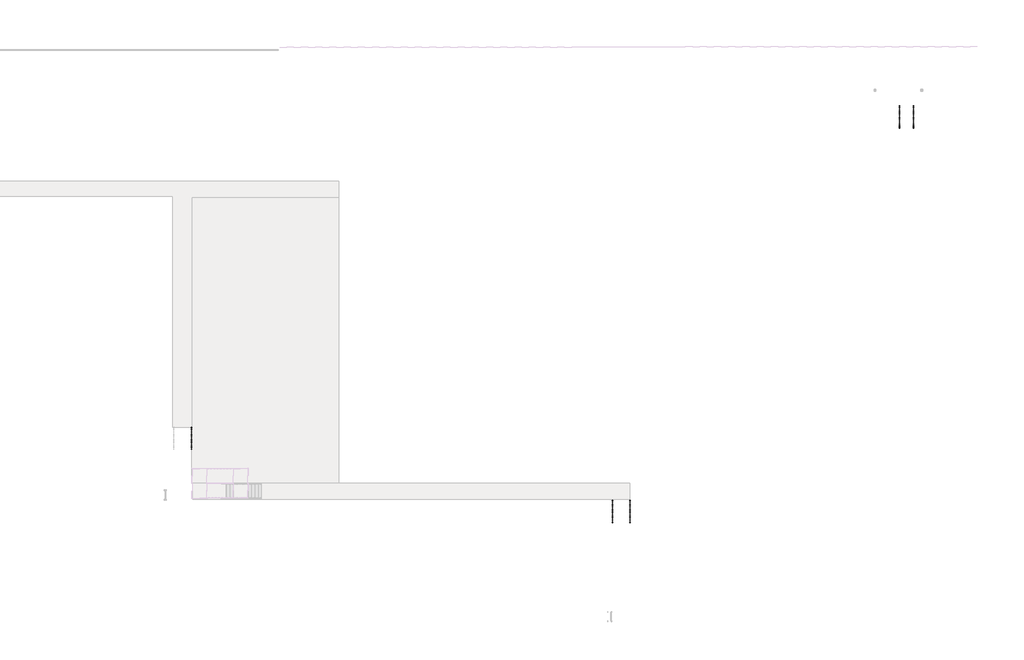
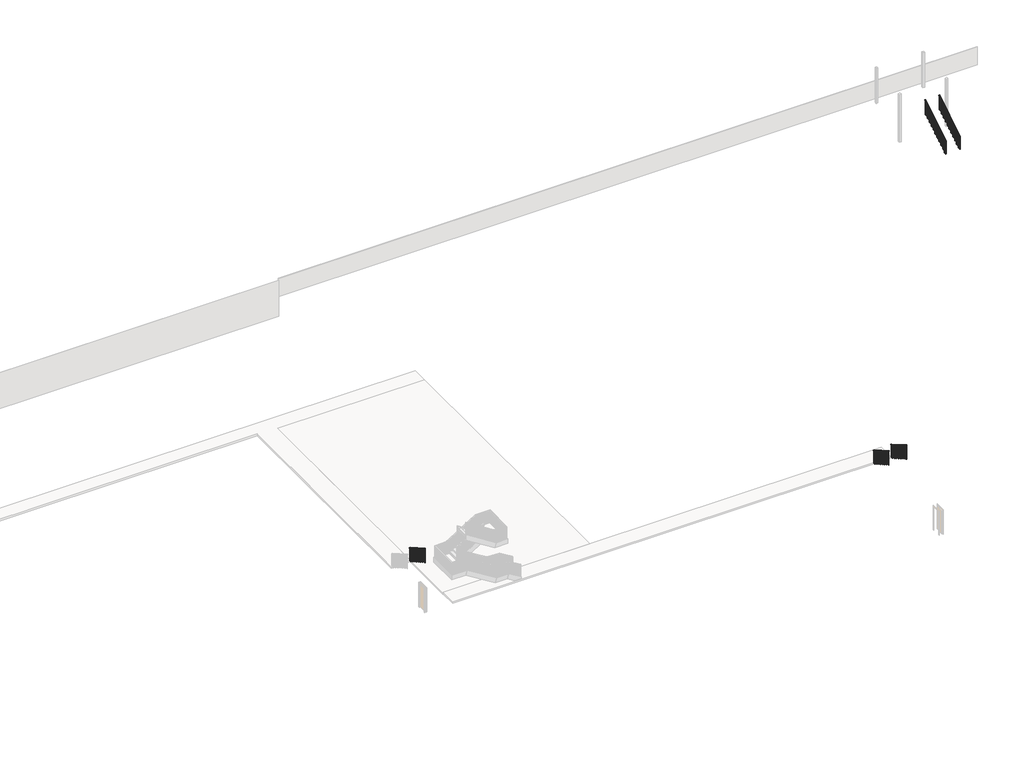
# One storey, part 4 of 5: 5 railings.
"""IFC4 building model written with IfcOpenShell, lengths in millimetres."""

from ifc_helpers import new_model, si_unit, frame, origin, place, context, project, spatial, polyline, outline, extrude, element, save

model = new_model("IFC4")

# Units and contexts
model_context = context("Model", 3, world=origin())
ifc_project = project(units=[si_unit("LENGTHUNIT", "METRE", prefix="MILLI")], contexts=[model_context])

# Site, building, storey
site = spatial("IfcSite", under=ifc_project)
building = spatial("IfcBuilding", under=site)
storey = spatial("IfcBuildingStorey", under=building, Name="Hardstand", Elevation=42810.0)

# Railings
placement = place(None, origin())
element("IfcRailing", 1, ObjectType="1100mm", at=placement, inside=storey, context=model_context, shape_type="SweptSolid", body=[
    extrude(outline(polyline([(11977.1808322, 44025.5555556), (11977.1808322, 43967.8509691), (9817.1808322, 45212.2954135), (9817.1808322, 45270.0), (11977.1808322, 44025.5555556)])), frame((-44548.6423298, 0.0, 0.0), z_axis=(1.0, 0.0, 0.0), x_axis=(0.0, 1.0, 0.0)), (0.0, 0.0, 1.0), 50.0),
    extrude(outline(polyline([(9897.1808322, 45166.2048785), (9897.1808322, 44014.4444444), (9872.1808322, 44014.4444444), (9872.1808322, 45180.6081707), (9897.1808322, 45166.2048785)])), frame((-44536.1423298, 0.0, 0.0), z_axis=(1.0, 0.0, 0.0), x_axis=(0.0, 1.0, 0.0)), (0.0, 0.0, 1.0), 25.0),
    extrude(outline(polyline([(10032.1808322, 45088.4271007), (10032.1808322, 44014.4444444), (10007.1808322, 44014.4444444), (10007.1808322, 45102.8303929), (10032.1808322, 45088.4271007)])), frame((-44536.1423298, 0.0, 0.0), z_axis=(1.0, 0.0, 0.0), x_axis=(0.0, 1.0, 0.0)), (0.0, 0.0, 1.0), 25.0),
    extrude(outline(polyline([(10167.1808322, 45010.649323), (10167.1808322, 43858.8888889), (10142.1808322, 43858.8888889), (10142.1808322, 45025.0526152), (10167.1808322, 45010.649323)])), frame((-44536.1423298, 0.0, 0.0), z_axis=(1.0, 0.0, 0.0), x_axis=(0.0, 1.0, 0.0)), (0.0, 0.0, 1.0), 25.0),
    extrude(outline(polyline([(10302.1808322, 44932.8715452), (10302.1808322, 43858.8888889), (10277.1808322, 43858.8888889), (10277.1808322, 44947.2748374), (10302.1808322, 44932.8715452)])), frame((-44536.1423298, 0.0, 0.0), z_axis=(1.0, 0.0, 0.0), x_axis=(0.0, 1.0, 0.0)), (0.0, 0.0, 1.0), 25.0),
    extrude(outline(polyline([(10437.1808322, 44855.0937674), (10437.1808322, 43703.3333333), (10412.1808322, 43703.3333333), (10412.1808322, 44869.4970596), (10437.1808322, 44855.0937674)])), frame((-44536.1423298, 0.0, 0.0), z_axis=(1.0, 0.0, 0.0), x_axis=(0.0, 1.0, 0.0)), (0.0, 0.0, 1.0), 25.0),
    extrude(outline(polyline([(10572.1808322, 44777.3159896), (10572.1808322, 43703.3333333), (10547.1808322, 43703.3333333), (10547.1808322, 44791.7192818), (10572.1808322, 44777.3159896)])), frame((-44536.1423298, 0.0, 0.0), z_axis=(1.0, 0.0, 0.0), x_axis=(0.0, 1.0, 0.0)), (0.0, 0.0, 1.0), 25.0),
    extrude(outline(polyline([(10707.1808322, 44699.5382119), (10707.1808322, 43547.7777778), (10682.1808322, 43547.7777778), (10682.1808322, 44713.941504), (10707.1808322, 44699.5382119)])), frame((-44536.1423298, 0.0, 0.0), z_axis=(1.0, 0.0, 0.0), x_axis=(0.0, 1.0, 0.0)), (0.0, 0.0, 1.0), 25.0),
    extrude(outline(polyline([(10842.1808322, 44621.7604341), (10842.1808322, 43547.7777778), (10817.1808322, 43547.7777778), (10817.1808322, 44636.1637263), (10842.1808322, 44621.7604341)])), frame((-44536.1423298, 0.0, 0.0), z_axis=(1.0, 0.0, 0.0), x_axis=(0.0, 1.0, 0.0)), (0.0, 0.0, 1.0), 25.0),
    extrude(outline(polyline([(10977.1808322, 44543.9826563), (10977.1808322, 43392.2222222), (10952.1808322, 43392.2222222), (10952.1808322, 44558.3859485), (10977.1808322, 44543.9826563)])), frame((-44536.1423298, 0.0, 0.0), z_axis=(1.0, 0.0, 0.0), x_axis=(0.0, 1.0, 0.0)), (0.0, 0.0, 1.0), 25.0),
    extrude(outline(polyline([(11112.1808322, 44466.2048785), (11112.1808322, 43392.2222222), (11087.1808322, 43392.2222222), (11087.1808322, 44480.6081707), (11112.1808322, 44466.2048785)])), frame((-44536.1423298, 0.0, 0.0), z_axis=(1.0, 0.0, 0.0), x_axis=(0.0, 1.0, 0.0)), (0.0, 0.0, 1.0), 25.0),
    extrude(outline(polyline([(11247.1808322, 44388.4271007), (11247.1808322, 43236.6666667), (11222.1808322, 43236.6666667), (11222.1808322, 44402.8303929), (11247.1808322, 44388.4271007)])), frame((-44536.1423298, 0.0, 0.0), z_axis=(1.0, 0.0, 0.0), x_axis=(0.0, 1.0, 0.0)), (0.0, 0.0, 1.0), 25.0),
    extrude(outline(polyline([(11382.1808322, 44310.649323), (11382.1808322, 43236.6666667), (11357.1808322, 43236.6666667), (11357.1808322, 44325.0526152), (11382.1808322, 44310.649323)])), frame((-44536.1423298, 0.0, 0.0), z_axis=(1.0, 0.0, 0.0), x_axis=(0.0, 1.0, 0.0)), (0.0, 0.0, 1.0), 25.0),
    extrude(outline(polyline([(11517.1808322, 44232.8715452), (11517.1808322, 43081.1111111), (11492.1808322, 43081.1111111), (11492.1808322, 44247.2748374), (11517.1808322, 44232.8715452)])), frame((-44536.1423298, 0.0, 0.0), z_axis=(1.0, 0.0, 0.0), x_axis=(0.0, 1.0, 0.0)), (0.0, 0.0, 1.0), 25.0),
    extrude(outline(polyline([(11652.1808322, 44155.0937674), (11652.1808322, 43081.1111111), (11627.1808322, 43081.1111111), (11627.1808322, 44169.4970596), (11652.1808322, 44155.0937674)])), frame((-44536.1423298, 0.0, 0.0), z_axis=(1.0, 0.0, 0.0), x_axis=(0.0, 1.0, 0.0)), (0.0, 0.0, 1.0), 25.0),
    extrude(outline(polyline([(11787.1808322, 44077.3159896), (11787.1808322, 42925.5555556), (11762.1808322, 42925.5555556), (11762.1808322, 44091.7192818), (11787.1808322, 44077.3159896)])), frame((-44536.1423298, 0.0, 0.0), z_axis=(1.0, 0.0, 0.0), x_axis=(0.0, 1.0, 0.0)), (0.0, 0.0, 1.0), 25.0),
    extrude(outline(polyline([(11922.1808322, 43999.5382119), (11922.1808322, 42925.5555556), (11897.1808322, 42925.5555556), (11897.1808322, 44013.941504), (11922.1808322, 43999.5382119)])), frame((-44536.1423298, 0.0, 0.0), z_axis=(1.0, 0.0, 0.0), x_axis=(0.0, 1.0, 0.0)), (0.0, 0.0, 1.0), 25.0),
    extrude(outline(polyline([(9842.1808322, 45197.8921213), (9842.1808322, 44014.4444444), (9817.1808322, 44014.4444444), (9817.1808322, 45212.2954135), (9842.1808322, 45197.8921213)])), frame((-44536.1423298, 0.0, 0.0), z_axis=(1.0, 0.0, 0.0), x_axis=(0.0, 1.0, 0.0)), (0.0, 0.0, 1.0), 25.0),
    extrude(outline(polyline([(11977.1808322, 43967.8509691), (11977.1808322, 42925.5555556), (11952.1808322, 42925.5555556), (11952.1808322, 43982.2542612), (11977.1808322, 43967.8509691)])), frame((-44536.1423298, 0.0, 0.0), z_axis=(1.0, 0.0, 0.0), x_axis=(0.0, 1.0, 0.0)), (0.0, 0.0, 1.0), 25.0),
])
element("IfcRailing", 2, ObjectType="1100mm", at=placement, inside=storey, context=model_context, shape_type="SweptSolid", body=[
    extrude(outline(polyline([(11977.1808322, 44025.5555556), (11977.1808322, 43967.8509691), (9817.1808322, 45212.2954135), (9817.1808322, 45270.0), (11977.1808322, 44025.5555556)])), frame((-43099.4423298, 0.0, 0.0), z_axis=(1.0, 0.0, 0.0), x_axis=(0.0, 1.0, 0.0)), (0.0, 0.0, 1.0), 50.0),
    extrude(outline(polyline([(9897.1808322, 44014.4444444), (9872.1808322, 44014.4444444), (9872.1808322, 45180.6081707), (9897.1808322, 45166.2048785), (9897.1808322, 44014.4444444)])), frame((-43086.9423298, 0.0, 0.0), z_axis=(1.0, 0.0, 0.0), x_axis=(0.0, 1.0, 0.0)), (0.0, 0.0, 1.0), 25.0),
    extrude(outline(polyline([(10032.1808322, 44014.4444444), (10007.1808322, 44014.4444444), (10007.1808322, 45102.8303929), (10032.1808322, 45088.4271007), (10032.1808322, 44014.4444444)])), frame((-43086.9423298, 0.0, 0.0), z_axis=(1.0, 0.0, 0.0), x_axis=(0.0, 1.0, 0.0)), (0.0, 0.0, 1.0), 25.0),
    extrude(outline(polyline([(10167.1808322, 43858.8888889), (10142.1808322, 43858.8888889), (10142.1808322, 45025.0526152), (10167.1808322, 45010.649323), (10167.1808322, 43858.8888889)])), frame((-43086.9423298, 0.0, 0.0), z_axis=(1.0, 0.0, 0.0), x_axis=(0.0, 1.0, 0.0)), (0.0, 0.0, 1.0), 25.0),
    extrude(outline(polyline([(10302.1808322, 43858.8888889), (10277.1808322, 43858.8888889), (10277.1808322, 44947.2748374), (10302.1808322, 44932.8715452), (10302.1808322, 43858.8888889)])), frame((-43086.9423298, 0.0, 0.0), z_axis=(1.0, 0.0, 0.0), x_axis=(0.0, 1.0, 0.0)), (0.0, 0.0, 1.0), 25.0),
    extrude(outline(polyline([(10437.1808322, 43703.3333333), (10412.1808322, 43703.3333333), (10412.1808322, 44869.4970596), (10437.1808322, 44855.0937674), (10437.1808322, 43703.3333333)])), frame((-43086.9423298, 0.0, 0.0), z_axis=(1.0, 0.0, 0.0), x_axis=(0.0, 1.0, 0.0)), (0.0, 0.0, 1.0), 25.0),
    extrude(outline(polyline([(10572.1808322, 43703.3333333), (10547.1808322, 43703.3333333), (10547.1808322, 44791.7192818), (10572.1808322, 44777.3159896), (10572.1808322, 43703.3333333)])), frame((-43086.9423298, 0.0, 0.0), z_axis=(1.0, 0.0, 0.0), x_axis=(0.0, 1.0, 0.0)), (0.0, 0.0, 1.0), 25.0),
    extrude(outline(polyline([(10707.1808322, 43547.7777778), (10682.1808322, 43547.7777778), (10682.1808322, 44713.941504), (10707.1808322, 44699.5382119), (10707.1808322, 43547.7777778)])), frame((-43086.9423298, 0.0, 0.0), z_axis=(1.0, 0.0, 0.0), x_axis=(0.0, 1.0, 0.0)), (0.0, 0.0, 1.0), 25.0),
    extrude(outline(polyline([(10842.1808322, 43547.7777778), (10817.1808322, 43547.7777778), (10817.1808322, 44636.1637263), (10842.1808322, 44621.7604341), (10842.1808322, 43547.7777778)])), frame((-43086.9423298, 0.0, 0.0), z_axis=(1.0, 0.0, 0.0), x_axis=(0.0, 1.0, 0.0)), (0.0, 0.0, 1.0), 25.0),
    extrude(outline(polyline([(10977.1808322, 43392.2222222), (10952.1808322, 43392.2222222), (10952.1808322, 44558.3859485), (10977.1808322, 44543.9826563), (10977.1808322, 43392.2222222)])), frame((-43086.9423298, 0.0, 0.0), z_axis=(1.0, 0.0, 0.0), x_axis=(0.0, 1.0, 0.0)), (0.0, 0.0, 1.0), 25.0),
    extrude(outline(polyline([(11112.1808322, 43392.2222222), (11087.1808322, 43392.2222222), (11087.1808322, 44480.6081707), (11112.1808322, 44466.2048785), (11112.1808322, 43392.2222222)])), frame((-43086.9423298, 0.0, 0.0), z_axis=(1.0, 0.0, 0.0), x_axis=(0.0, 1.0, 0.0)), (0.0, 0.0, 1.0), 25.0),
    extrude(outline(polyline([(11247.1808322, 43236.6666667), (11222.1808322, 43236.6666667), (11222.1808322, 44402.8303929), (11247.1808322, 44388.4271007), (11247.1808322, 43236.6666667)])), frame((-43086.9423298, 0.0, 0.0), z_axis=(1.0, 0.0, 0.0), x_axis=(0.0, 1.0, 0.0)), (0.0, 0.0, 1.0), 25.0),
    extrude(outline(polyline([(11382.1808322, 43236.6666667), (11357.1808322, 43236.6666667), (11357.1808322, 44325.0526152), (11382.1808322, 44310.649323), (11382.1808322, 43236.6666667)])), frame((-43086.9423298, 0.0, 0.0), z_axis=(1.0, 0.0, 0.0), x_axis=(0.0, 1.0, 0.0)), (0.0, 0.0, 1.0), 25.0),
    extrude(outline(polyline([(11517.1808322, 43081.1111111), (11492.1808322, 43081.1111111), (11492.1808322, 44247.2748374), (11517.1808322, 44232.8715452), (11517.1808322, 43081.1111111)])), frame((-43086.9423298, 0.0, 0.0), z_axis=(1.0, 0.0, 0.0), x_axis=(0.0, 1.0, 0.0)), (0.0, 0.0, 1.0), 25.0),
    extrude(outline(polyline([(11652.1808322, 43081.1111111), (11627.1808322, 43081.1111111), (11627.1808322, 44169.4970596), (11652.1808322, 44155.0937674), (11652.1808322, 43081.1111111)])), frame((-43086.9423298, 0.0, 0.0), z_axis=(1.0, 0.0, 0.0), x_axis=(0.0, 1.0, 0.0)), (0.0, 0.0, 1.0), 25.0),
    extrude(outline(polyline([(11787.1808322, 42925.5555556), (11762.1808322, 42925.5555556), (11762.1808322, 44091.7192818), (11787.1808322, 44077.3159896), (11787.1808322, 42925.5555556)])), frame((-43086.9423298, 0.0, 0.0), z_axis=(1.0, 0.0, 0.0), x_axis=(0.0, 1.0, 0.0)), (0.0, 0.0, 1.0), 25.0),
    extrude(outline(polyline([(11922.1808322, 42925.5555556), (11897.1808322, 42925.5555556), (11897.1808322, 44013.941504), (11922.1808322, 43999.5382119), (11922.1808322, 42925.5555556)])), frame((-43086.9423298, 0.0, 0.0), z_axis=(1.0, 0.0, 0.0), x_axis=(0.0, 1.0, 0.0)), (0.0, 0.0, 1.0), 25.0),
    extrude(outline(polyline([(9842.1808322, 44014.4444444), (9817.1808322, 44014.4444444), (9817.1808322, 45212.2954135), (9842.1808322, 45197.8921213), (9842.1808322, 44014.4444444)])), frame((-43086.9423298, 0.0, 0.0), z_axis=(1.0, 0.0, 0.0), x_axis=(0.0, 1.0, 0.0)), (0.0, 0.0, 1.0), 25.0),
    extrude(outline(polyline([(11977.1808322, 42925.5555556), (11952.1808322, 42925.5555556), (11952.1808322, 43982.2542612), (11977.1808322, 43967.8509691), (11977.1808322, 42925.5555556)])), frame((-43086.9423298, 0.0, 0.0), z_axis=(1.0, 0.0, 0.0), x_axis=(0.0, 1.0, 0.0)), (0.0, 0.0, 1.0), 25.0),
])
element("IfcRailing", 3, ObjectType="1100mm", at=placement, inside=storey, context=model_context, shape_type="SweptSolid", body=[
    extrude(outline(polyline([(18017.4703267, 44025.5555556), (18017.4703267, 43967.8509691), (15857.4703267, 45212.2954135), (15857.4703267, 45270.0), (18017.4703267, 44025.5555556)])), frame((-79256.0913038, 0.0, 0.0), z_axis=(1.0, 0.0, 0.0), x_axis=(0.0, 1.0, 0.0)), (0.0, 0.0, 1.0), 50.0),
    extrude(outline(polyline([(15937.4703267, 44014.4444444), (15912.4703267, 44014.4444444), (15912.4703267, 45180.6081707), (15937.4703267, 45166.2048785), (15937.4703267, 44014.4444444)])), frame((-79243.5913038, 0.0, 0.0), z_axis=(1.0, 0.0, 0.0), x_axis=(0.0, 1.0, 0.0)), (0.0, 0.0, 1.0), 25.0),
    extrude(outline(polyline([(16072.4703267, 44014.4444444), (16047.4703267, 44014.4444444), (16047.4703267, 45102.8303929), (16072.4703267, 45088.4271007), (16072.4703267, 44014.4444444)])), frame((-79243.5913038, 0.0, 0.0), z_axis=(1.0, 0.0, 0.0), x_axis=(0.0, 1.0, 0.0)), (0.0, 0.0, 1.0), 25.0),
    extrude(outline(polyline([(16207.4703267, 43858.8888889), (16182.4703267, 43858.8888889), (16182.4703267, 45025.0526152), (16207.4703267, 45010.649323), (16207.4703267, 43858.8888889)])), frame((-79243.5913038, 0.0, 0.0), z_axis=(1.0, 0.0, 0.0), x_axis=(0.0, 1.0, 0.0)), (0.0, 0.0, 1.0), 25.0),
    extrude(outline(polyline([(16342.4703267, 43858.8888889), (16317.4703267, 43858.8888889), (16317.4703267, 44947.2748374), (16342.4703267, 44932.8715452), (16342.4703267, 43858.8888889)])), frame((-79243.5913038, 0.0, 0.0), z_axis=(1.0, 0.0, 0.0), x_axis=(0.0, 1.0, 0.0)), (0.0, 0.0, 1.0), 25.0),
    extrude(outline(polyline([(16477.4703267, 43703.3333333), (16452.4703267, 43703.3333333), (16452.4703267, 44869.4970596), (16477.4703267, 44855.0937674), (16477.4703267, 43703.3333333)])), frame((-79243.5913038, 0.0, 0.0), z_axis=(1.0, 0.0, 0.0), x_axis=(0.0, 1.0, 0.0)), (0.0, 0.0, 1.0), 25.0),
    extrude(outline(polyline([(16612.4703267, 43703.3333333), (16587.4703267, 43703.3333333), (16587.4703267, 44791.7192818), (16612.4703267, 44777.3159896), (16612.4703267, 43703.3333333)])), frame((-79243.5913038, 0.0, 0.0), z_axis=(1.0, 0.0, 0.0), x_axis=(0.0, 1.0, 0.0)), (0.0, 0.0, 1.0), 25.0),
    extrude(outline(polyline([(16747.4703267, 43547.7777778), (16722.4703267, 43547.7777778), (16722.4703267, 44713.941504), (16747.4703267, 44699.5382119), (16747.4703267, 43547.7777778)])), frame((-79243.5913038, 0.0, 0.0), z_axis=(1.0, 0.0, 0.0), x_axis=(0.0, 1.0, 0.0)), (0.0, 0.0, 1.0), 25.0),
    extrude(outline(polyline([(16882.4703267, 43547.7777778), (16857.4703267, 43547.7777778), (16857.4703267, 44636.1637263), (16882.4703267, 44621.7604341), (16882.4703267, 43547.7777778)])), frame((-79243.5913038, 0.0, 0.0), z_axis=(1.0, 0.0, 0.0), x_axis=(0.0, 1.0, 0.0)), (0.0, 0.0, 1.0), 25.0),
    extrude(outline(polyline([(17017.4703267, 43392.2222222), (16992.4703267, 43392.2222222), (16992.4703267, 44558.3859485), (17017.4703267, 44543.9826563), (17017.4703267, 43392.2222222)])), frame((-79243.5913038, 0.0, 0.0), z_axis=(1.0, 0.0, 0.0), x_axis=(0.0, 1.0, 0.0)), (0.0, 0.0, 1.0), 25.0),
    extrude(outline(polyline([(17152.4703267, 43392.2222222), (17127.4703267, 43392.2222222), (17127.4703267, 44480.6081707), (17152.4703267, 44466.2048785), (17152.4703267, 43392.2222222)])), frame((-79243.5913038, 0.0, 0.0), z_axis=(1.0, 0.0, 0.0), x_axis=(0.0, 1.0, 0.0)), (0.0, 0.0, 1.0), 25.0),
    extrude(outline(polyline([(17287.4703267, 43236.6666667), (17262.4703267, 43236.6666667), (17262.4703267, 44402.8303929), (17287.4703267, 44388.4271007), (17287.4703267, 43236.6666667)])), frame((-79243.5913038, 0.0, 0.0), z_axis=(1.0, 0.0, 0.0), x_axis=(0.0, 1.0, 0.0)), (0.0, 0.0, 1.0), 25.0),
    extrude(outline(polyline([(17422.4703267, 43236.6666667), (17397.4703267, 43236.6666667), (17397.4703267, 44325.0526152), (17422.4703267, 44310.649323), (17422.4703267, 43236.6666667)])), frame((-79243.5913038, 0.0, 0.0), z_axis=(1.0, 0.0, 0.0), x_axis=(0.0, 1.0, 0.0)), (0.0, 0.0, 1.0), 25.0),
    extrude(outline(polyline([(17557.4703267, 43081.1111111), (17532.4703267, 43081.1111111), (17532.4703267, 44247.2748374), (17557.4703267, 44232.8715452), (17557.4703267, 43081.1111111)])), frame((-79243.5913038, 0.0, 0.0), z_axis=(1.0, 0.0, 0.0), x_axis=(0.0, 1.0, 0.0)), (0.0, 0.0, 1.0), 25.0),
    extrude(outline(polyline([(17692.4703267, 43081.1111111), (17667.4703267, 43081.1111111), (17667.4703267, 44169.4970596), (17692.4703267, 44155.0937674), (17692.4703267, 43081.1111111)])), frame((-79243.5913038, 0.0, 0.0), z_axis=(1.0, 0.0, 0.0), x_axis=(0.0, 1.0, 0.0)), (0.0, 0.0, 1.0), 25.0),
    extrude(outline(polyline([(17827.4703267, 42925.5555556), (17802.4703267, 42925.5555556), (17802.4703267, 44091.7192818), (17827.4703267, 44077.3159896), (17827.4703267, 42925.5555556)])), frame((-79243.5913038, 0.0, 0.0), z_axis=(1.0, 0.0, 0.0), x_axis=(0.0, 1.0, 0.0)), (0.0, 0.0, 1.0), 25.0),
    extrude(outline(polyline([(17962.4703267, 42925.5555556), (17937.4703267, 42925.5555556), (17937.4703267, 44013.941504), (17962.4703267, 43999.5382119), (17962.4703267, 42925.5555556)])), frame((-79243.5913038, 0.0, 0.0), z_axis=(1.0, 0.0, 0.0), x_axis=(0.0, 1.0, 0.0)), (0.0, 0.0, 1.0), 25.0),
    extrude(outline(polyline([(15882.4703267, 44014.4444444), (15857.4703267, 44014.4444444), (15857.4703267, 45212.2954135), (15882.4703267, 45197.8921213), (15882.4703267, 44014.4444444)])), frame((-79243.5913038, 0.0, 0.0), z_axis=(1.0, 0.0, 0.0), x_axis=(0.0, 1.0, 0.0)), (0.0, 0.0, 1.0), 25.0),
    extrude(outline(polyline([(18017.4703267, 42925.5555556), (17992.4703267, 42925.5555556), (17992.4703267, 43982.2542612), (18017.4703267, 43967.8509691), (18017.4703267, 42925.5555556)])), frame((-79243.5913038, 0.0, 0.0), z_axis=(1.0, 0.0, 0.0), x_axis=(0.0, 1.0, 0.0)), (0.0, 0.0, 1.0), 25.0),
])
element("IfcRailing", 4, ObjectType="1100mm", at=placement, inside=storey, context=model_context, shape_type="SweptSolid", body=[
    extrude(outline(polyline([(42669.4991708, 43927.9078487), (42669.4991708, 43986.6666667), (45639.4991708, 45820.0), (45639.4991708, 45761.241182), (42669.4991708, 43927.9078487)])), frame((-19719.9693283, 0.0, 0.0), z_axis=(1.0, 0.0, 0.0), x_axis=(0.0, 1.0, 0.0)), (0.0, 0.0, 1.0), 50.0),
    extrude(outline(polyline([(45559.4991708, 44553.3333333), (45559.4991708, 45711.858466), (45584.4991708, 45727.2905647), (45584.4991708, 44553.3333333), (45559.4991708, 44553.3333333)])), frame((-19707.4693283, 0.0, 0.0), z_axis=(1.0, 0.0, 0.0), x_axis=(0.0, 1.0, 0.0)), (0.0, 0.0, 1.0), 25.0),
    extrude(outline(polyline([(45424.4991708, 44553.3333333), (45424.4991708, 45628.5251326), (45449.4991708, 45643.9572314), (45449.4991708, 44553.3333333), (45424.4991708, 44553.3333333)])), frame((-19707.4693283, 0.0, 0.0), z_axis=(1.0, 0.0, 0.0), x_axis=(0.0, 1.0, 0.0)), (0.0, 0.0, 1.0), 25.0),
    extrude(outline(polyline([(45289.4991708, 44386.6666667), (45289.4991708, 45545.1917993), (45314.4991708, 45560.6238981), (45314.4991708, 44386.6666667), (45289.4991708, 44386.6666667)])), frame((-19707.4693283, 0.0, 0.0), z_axis=(1.0, 0.0, 0.0), x_axis=(0.0, 1.0, 0.0)), (0.0, 0.0, 1.0), 25.0),
    extrude(outline(polyline([(45154.4991708, 44386.6666667), (45154.4991708, 45461.858466), (45179.4991708, 45477.2905647), (45179.4991708, 44386.6666667), (45154.4991708, 44386.6666667)])), frame((-19707.4693283, 0.0, 0.0), z_axis=(1.0, 0.0, 0.0), x_axis=(0.0, 1.0, 0.0)), (0.0, 0.0, 1.0), 25.0),
    extrude(outline(polyline([(45019.4991708, 44220.0), (45019.4991708, 45378.5251326), (45044.4991708, 45393.9572314), (45044.4991708, 44220.0), (45019.4991708, 44220.0)])), frame((-19707.4693283, 0.0, 0.0), z_axis=(1.0, 0.0, 0.0), x_axis=(0.0, 1.0, 0.0)), (0.0, 0.0, 1.0), 25.0),
    extrude(outline(polyline([(44884.4991708, 44220.0), (44884.4991708, 45295.1917993), (44909.4991708, 45310.6238981), (44909.4991708, 44220.0), (44884.4991708, 44220.0)])), frame((-19707.4693283, 0.0, 0.0), z_axis=(1.0, 0.0, 0.0), x_axis=(0.0, 1.0, 0.0)), (0.0, 0.0, 1.0), 25.0),
    extrude(outline(polyline([(44749.4991708, 44053.3333333), (44749.4991708, 45211.858466), (44774.4991708, 45227.2905647), (44774.4991708, 44053.3333333), (44749.4991708, 44053.3333333)])), frame((-19707.4693283, 0.0, 0.0), z_axis=(1.0, 0.0, 0.0), x_axis=(0.0, 1.0, 0.0)), (0.0, 0.0, 1.0), 25.0),
    extrude(outline(polyline([(44614.4991708, 44053.3333333), (44614.4991708, 45128.5251326), (44639.4991708, 45143.9572314), (44639.4991708, 44053.3333333), (44614.4991708, 44053.3333333)])), frame((-19707.4693283, 0.0, 0.0), z_axis=(1.0, 0.0, 0.0), x_axis=(0.0, 1.0, 0.0)), (0.0, 0.0, 1.0), 25.0),
    extrude(outline(polyline([(44479.4991708, 43886.6666667), (44479.4991708, 45045.1917993), (44504.4991708, 45060.6238981), (44504.4991708, 43886.6666667), (44479.4991708, 43886.6666667)])), frame((-19707.4693283, 0.0, 0.0), z_axis=(1.0, 0.0, 0.0), x_axis=(0.0, 1.0, 0.0)), (0.0, 0.0, 1.0), 25.0),
    extrude(outline(polyline([(44344.4991708, 43886.6666667), (44344.4991708, 44961.858466), (44369.4991708, 44977.2905647), (44369.4991708, 43886.6666667), (44344.4991708, 43886.6666667)])), frame((-19707.4693283, 0.0, 0.0), z_axis=(1.0, 0.0, 0.0), x_axis=(0.0, 1.0, 0.0)), (0.0, 0.0, 1.0), 25.0),
    extrude(outline(polyline([(44209.4991708, 43720.0), (44209.4991708, 44878.5251326), (44234.4991708, 44893.9572314), (44234.4991708, 43720.0), (44209.4991708, 43720.0)])), frame((-19707.4693283, 0.0, 0.0), z_axis=(1.0, 0.0, 0.0), x_axis=(0.0, 1.0, 0.0)), (0.0, 0.0, 1.0), 25.0),
    extrude(outline(polyline([(44074.4991708, 43720.0), (44074.4991708, 44795.1917993), (44099.4991708, 44810.6238981), (44099.4991708, 43720.0), (44074.4991708, 43720.0)])), frame((-19707.4693283, 0.0, 0.0), z_axis=(1.0, 0.0, 0.0), x_axis=(0.0, 1.0, 0.0)), (0.0, 0.0, 1.0), 25.0),
    extrude(outline(polyline([(43939.4991708, 43553.3333333), (43939.4991708, 44711.858466), (43964.4991708, 44727.2905647), (43964.4991708, 43553.3333333), (43939.4991708, 43553.3333333)])), frame((-19707.4693283, 0.0, 0.0), z_axis=(1.0, 0.0, 0.0), x_axis=(0.0, 1.0, 0.0)), (0.0, 0.0, 1.0), 25.0),
    extrude(outline(polyline([(43804.4991708, 43553.3333333), (43804.4991708, 44628.5251326), (43829.4991708, 44643.9572314), (43829.4991708, 43553.3333333), (43804.4991708, 43553.3333333)])), frame((-19707.4693283, 0.0, 0.0), z_axis=(1.0, 0.0, 0.0), x_axis=(0.0, 1.0, 0.0)), (0.0, 0.0, 1.0), 25.0),
    extrude(outline(polyline([(43669.4991708, 43386.6666667), (43669.4991708, 44545.1917993), (43694.4991708, 44560.6238981), (43694.4991708, 43386.6666667), (43669.4991708, 43386.6666667)])), frame((-19707.4693283, 0.0, 0.0), z_axis=(1.0, 0.0, 0.0), x_axis=(0.0, 1.0, 0.0)), (0.0, 0.0, 1.0), 25.0),
    extrude(outline(polyline([(43534.4991708, 43386.6666667), (43534.4991708, 44461.858466), (43559.4991708, 44477.2905647), (43559.4991708, 43386.6666667), (43534.4991708, 43386.6666667)])), frame((-19707.4693283, 0.0, 0.0), z_axis=(1.0, 0.0, 0.0), x_axis=(0.0, 1.0, 0.0)), (0.0, 0.0, 1.0), 25.0),
    extrude(outline(polyline([(43399.4991708, 43220.0), (43399.4991708, 44378.5251326), (43424.4991708, 44393.9572314), (43424.4991708, 43220.0), (43399.4991708, 43220.0)])), frame((-19707.4693283, 0.0, 0.0), z_axis=(1.0, 0.0, 0.0), x_axis=(0.0, 1.0, 0.0)), (0.0, 0.0, 1.0), 25.0),
    extrude(outline(polyline([(43264.4991708, 43220.0), (43264.4991708, 44295.1917993), (43289.4991708, 44310.6238981), (43289.4991708, 43220.0), (43264.4991708, 43220.0)])), frame((-19707.4693283, 0.0, 0.0), z_axis=(1.0, 0.0, 0.0), x_axis=(0.0, 1.0, 0.0)), (0.0, 0.0, 1.0), 25.0),
    extrude(outline(polyline([(43129.4991708, 43053.3333333), (43129.4991708, 44211.858466), (43154.4991708, 44227.2905647), (43154.4991708, 43053.3333333), (43129.4991708, 43053.3333333)])), frame((-19707.4693283, 0.0, 0.0), z_axis=(1.0, 0.0, 0.0), x_axis=(0.0, 1.0, 0.0)), (0.0, 0.0, 1.0), 25.0),
    extrude(outline(polyline([(42994.4991708, 43053.3333333), (42994.4991708, 44128.5251326), (43019.4991708, 44143.9572314), (43019.4991708, 43053.3333333), (42994.4991708, 43053.3333333)])), frame((-19707.4693283, 0.0, 0.0), z_axis=(1.0, 0.0, 0.0), x_axis=(0.0, 1.0, 0.0)), (0.0, 0.0, 1.0), 25.0),
    extrude(outline(polyline([(42859.4991708, 42886.6666667), (42859.4991708, 44045.1917993), (42884.4991708, 44060.6238981), (42884.4991708, 42886.6666667), (42859.4991708, 42886.6666667)])), frame((-19707.4693283, 0.0, 0.0), z_axis=(1.0, 0.0, 0.0), x_axis=(0.0, 1.0, 0.0)), (0.0, 0.0, 1.0), 25.0),
    extrude(outline(polyline([(42724.4991708, 42886.6666667), (42724.4991708, 43961.858466), (42749.4991708, 43977.2905647), (42749.4991708, 42886.6666667), (42724.4991708, 42886.6666667)])), frame((-19707.4693283, 0.0, 0.0), z_axis=(1.0, 0.0, 0.0), x_axis=(0.0, 1.0, 0.0)), (0.0, 0.0, 1.0), 25.0),
    extrude(outline(polyline([(45614.4991708, 44553.3333333), (45614.4991708, 45745.8090833), (45639.4991708, 45761.241182), (45639.4991708, 44553.3333333), (45614.4991708, 44553.3333333)])), frame((-19707.4693283, 0.0, 0.0), z_axis=(1.0, 0.0, 0.0), x_axis=(0.0, 1.0, 0.0)), (0.0, 0.0, 1.0), 25.0),
    extrude(outline(polyline([(42669.4991708, 42886.6666667), (42669.4991708, 43927.9078487), (42694.4991708, 43943.3399475), (42694.4991708, 42886.6666667), (42669.4991708, 42886.6666667)])), frame((-19707.4693283, 0.0, 0.0), z_axis=(1.0, 0.0, 0.0), x_axis=(0.0, 1.0, 0.0)), (0.0, 0.0, 1.0), 25.0),
])
element("IfcRailing", 5, ObjectType="1100mm", at=placement, inside=storey, context=model_context, shape_type="SweptSolid", body=[
    extrude(outline(polyline([(42669.4991708, 43927.9078487), (42669.4991708, 43986.6666667), (45639.4991708, 45820.0), (45639.4991708, 45761.241182), (42669.4991708, 43927.9078487)])), frame((-20869.1693283, 0.0, 0.0), z_axis=(1.0, 0.0, 0.0), x_axis=(0.0, 1.0, 0.0)), (0.0, 0.0, 1.0), 50.0),
    extrude(outline(polyline([(45559.4991708, 45711.858466), (45584.4991708, 45727.2905647), (45584.4991708, 44553.3333333), (45559.4991708, 44553.3333333), (45559.4991708, 45711.858466)])), frame((-20856.6693283, 0.0, 0.0), z_axis=(1.0, 0.0, 0.0), x_axis=(0.0, 1.0, 0.0)), (0.0, 0.0, 1.0), 25.0),
    extrude(outline(polyline([(45424.4991708, 45628.5251326), (45449.4991708, 45643.9572314), (45449.4991708, 44553.3333333), (45424.4991708, 44553.3333333), (45424.4991708, 45628.5251326)])), frame((-20856.6693283, 0.0, 0.0), z_axis=(1.0, 0.0, 0.0), x_axis=(0.0, 1.0, 0.0)), (0.0, 0.0, 1.0), 25.0),
    extrude(outline(polyline([(45289.4991708, 45545.1917993), (45314.4991708, 45560.6238981), (45314.4991708, 44386.6666667), (45289.4991708, 44386.6666667), (45289.4991708, 45545.1917993)])), frame((-20856.6693283, 0.0, 0.0), z_axis=(1.0, 0.0, 0.0), x_axis=(0.0, 1.0, 0.0)), (0.0, 0.0, 1.0), 25.0),
    extrude(outline(polyline([(45154.4991708, 45461.858466), (45179.4991708, 45477.2905647), (45179.4991708, 44386.6666667), (45154.4991708, 44386.6666667), (45154.4991708, 45461.858466)])), frame((-20856.6693283, 0.0, 0.0), z_axis=(1.0, 0.0, 0.0), x_axis=(0.0, 1.0, 0.0)), (0.0, 0.0, 1.0), 25.0),
    extrude(outline(polyline([(45019.4991708, 45378.5251326), (45044.4991708, 45393.9572314), (45044.4991708, 44220.0), (45019.4991708, 44220.0), (45019.4991708, 45378.5251326)])), frame((-20856.6693283, 0.0, 0.0), z_axis=(1.0, 0.0, 0.0), x_axis=(0.0, 1.0, 0.0)), (0.0, 0.0, 1.0), 25.0),
    extrude(outline(polyline([(44884.4991708, 45295.1917993), (44909.4991708, 45310.6238981), (44909.4991708, 44220.0), (44884.4991708, 44220.0), (44884.4991708, 45295.1917993)])), frame((-20856.6693283, 0.0, 0.0), z_axis=(1.0, 0.0, 0.0), x_axis=(0.0, 1.0, 0.0)), (0.0, 0.0, 1.0), 25.0),
    extrude(outline(polyline([(44749.4991708, 45211.858466), (44774.4991708, 45227.2905647), (44774.4991708, 44053.3333333), (44749.4991708, 44053.3333333), (44749.4991708, 45211.858466)])), frame((-20856.6693283, 0.0, 0.0), z_axis=(1.0, 0.0, 0.0), x_axis=(0.0, 1.0, 0.0)), (0.0, 0.0, 1.0), 25.0),
    extrude(outline(polyline([(44614.4991708, 45128.5251326), (44639.4991708, 45143.9572314), (44639.4991708, 44053.3333333), (44614.4991708, 44053.3333333), (44614.4991708, 45128.5251326)])), frame((-20856.6693283, 0.0, 0.0), z_axis=(1.0, 0.0, 0.0), x_axis=(0.0, 1.0, 0.0)), (0.0, 0.0, 1.0), 25.0),
    extrude(outline(polyline([(44479.4991708, 45045.1917993), (44504.4991708, 45060.6238981), (44504.4991708, 43886.6666667), (44479.4991708, 43886.6666667), (44479.4991708, 45045.1917993)])), frame((-20856.6693283, 0.0, 0.0), z_axis=(1.0, 0.0, 0.0), x_axis=(0.0, 1.0, 0.0)), (0.0, 0.0, 1.0), 25.0),
    extrude(outline(polyline([(44344.4991708, 44961.858466), (44369.4991708, 44977.2905647), (44369.4991708, 43886.6666667), (44344.4991708, 43886.6666667), (44344.4991708, 44961.858466)])), frame((-20856.6693283, 0.0, 0.0), z_axis=(1.0, 0.0, 0.0), x_axis=(0.0, 1.0, 0.0)), (0.0, 0.0, 1.0), 25.0),
    extrude(outline(polyline([(44209.4991708, 44878.5251326), (44234.4991708, 44893.9572314), (44234.4991708, 43720.0), (44209.4991708, 43720.0), (44209.4991708, 44878.5251326)])), frame((-20856.6693283, 0.0, 0.0), z_axis=(1.0, 0.0, 0.0), x_axis=(0.0, 1.0, 0.0)), (0.0, 0.0, 1.0), 25.0),
    extrude(outline(polyline([(44074.4991708, 44795.1917993), (44099.4991708, 44810.6238981), (44099.4991708, 43720.0), (44074.4991708, 43720.0), (44074.4991708, 44795.1917993)])), frame((-20856.6693283, 0.0, 0.0), z_axis=(1.0, 0.0, 0.0), x_axis=(0.0, 1.0, 0.0)), (0.0, 0.0, 1.0), 25.0),
    extrude(outline(polyline([(43939.4991708, 44711.858466), (43964.4991708, 44727.2905647), (43964.4991708, 43553.3333333), (43939.4991708, 43553.3333333), (43939.4991708, 44711.858466)])), frame((-20856.6693283, 0.0, 0.0), z_axis=(1.0, 0.0, 0.0), x_axis=(0.0, 1.0, 0.0)), (0.0, 0.0, 1.0), 25.0),
    extrude(outline(polyline([(43804.4991708, 44628.5251326), (43829.4991708, 44643.9572314), (43829.4991708, 43553.3333333), (43804.4991708, 43553.3333333), (43804.4991708, 44628.5251326)])), frame((-20856.6693283, 0.0, 0.0), z_axis=(1.0, 0.0, 0.0), x_axis=(0.0, 1.0, 0.0)), (0.0, 0.0, 1.0), 25.0),
    extrude(outline(polyline([(43669.4991708, 44545.1917993), (43694.4991708, 44560.6238981), (43694.4991708, 43386.6666667), (43669.4991708, 43386.6666667), (43669.4991708, 44545.1917993)])), frame((-20856.6693283, 0.0, 0.0), z_axis=(1.0, 0.0, 0.0), x_axis=(0.0, 1.0, 0.0)), (0.0, 0.0, 1.0), 25.0),
    extrude(outline(polyline([(43534.4991708, 44461.858466), (43559.4991708, 44477.2905647), (43559.4991708, 43386.6666667), (43534.4991708, 43386.6666667), (43534.4991708, 44461.858466)])), frame((-20856.6693283, 0.0, 0.0), z_axis=(1.0, 0.0, 0.0), x_axis=(0.0, 1.0, 0.0)), (0.0, 0.0, 1.0), 25.0),
    extrude(outline(polyline([(43399.4991708, 44378.5251326), (43424.4991708, 44393.9572314), (43424.4991708, 43220.0), (43399.4991708, 43220.0), (43399.4991708, 44378.5251326)])), frame((-20856.6693283, 0.0, 0.0), z_axis=(1.0, 0.0, 0.0), x_axis=(0.0, 1.0, 0.0)), (0.0, 0.0, 1.0), 25.0),
    extrude(outline(polyline([(43264.4991708, 44295.1917993), (43289.4991708, 44310.6238981), (43289.4991708, 43220.0), (43264.4991708, 43220.0), (43264.4991708, 44295.1917993)])), frame((-20856.6693283, 0.0, 0.0), z_axis=(1.0, 0.0, 0.0), x_axis=(0.0, 1.0, 0.0)), (0.0, 0.0, 1.0), 25.0),
    extrude(outline(polyline([(43129.4991708, 44211.858466), (43154.4991708, 44227.2905647), (43154.4991708, 43053.3333333), (43129.4991708, 43053.3333333), (43129.4991708, 44211.858466)])), frame((-20856.6693283, 0.0, 0.0), z_axis=(1.0, 0.0, 0.0), x_axis=(0.0, 1.0, 0.0)), (0.0, 0.0, 1.0), 25.0),
    extrude(outline(polyline([(42994.4991708, 44128.5251326), (43019.4991708, 44143.9572314), (43019.4991708, 43053.3333333), (42994.4991708, 43053.3333333), (42994.4991708, 44128.5251326)])), frame((-20856.6693283, 0.0, 0.0), z_axis=(1.0, 0.0, 0.0), x_axis=(0.0, 1.0, 0.0)), (0.0, 0.0, 1.0), 25.0),
    extrude(outline(polyline([(42859.4991708, 44045.1917993), (42884.4991708, 44060.6238981), (42884.4991708, 42886.6666667), (42859.4991708, 42886.6666667), (42859.4991708, 44045.1917993)])), frame((-20856.6693283, 0.0, 0.0), z_axis=(1.0, 0.0, 0.0), x_axis=(0.0, 1.0, 0.0)), (0.0, 0.0, 1.0), 25.0),
    extrude(outline(polyline([(42724.4991708, 43961.858466), (42749.4991708, 43977.2905647), (42749.4991708, 42886.6666667), (42724.4991708, 42886.6666667), (42724.4991708, 43961.858466)])), frame((-20856.6693283, 0.0, 0.0), z_axis=(1.0, 0.0, 0.0), x_axis=(0.0, 1.0, 0.0)), (0.0, 0.0, 1.0), 25.0),
    extrude(outline(polyline([(45614.4991708, 45745.8090833), (45639.4991708, 45761.241182), (45639.4991708, 44553.3333333), (45614.4991708, 44553.3333333), (45614.4991708, 45745.8090833)])), frame((-20856.6693283, 0.0, 0.0), z_axis=(1.0, 0.0, 0.0), x_axis=(0.0, 1.0, 0.0)), (0.0, 0.0, 1.0), 25.0),
    extrude(outline(polyline([(42669.4991708, 43927.9078487), (42694.4991708, 43943.3399475), (42694.4991708, 42886.6666667), (42669.4991708, 42886.6666667), (42669.4991708, 43927.9078487)])), frame((-20856.6693283, 0.0, 0.0), z_axis=(1.0, 0.0, 0.0), x_axis=(0.0, 1.0, 0.0)), (0.0, 0.0, 1.0), 25.0),
])

save(model, "model.ifc")
